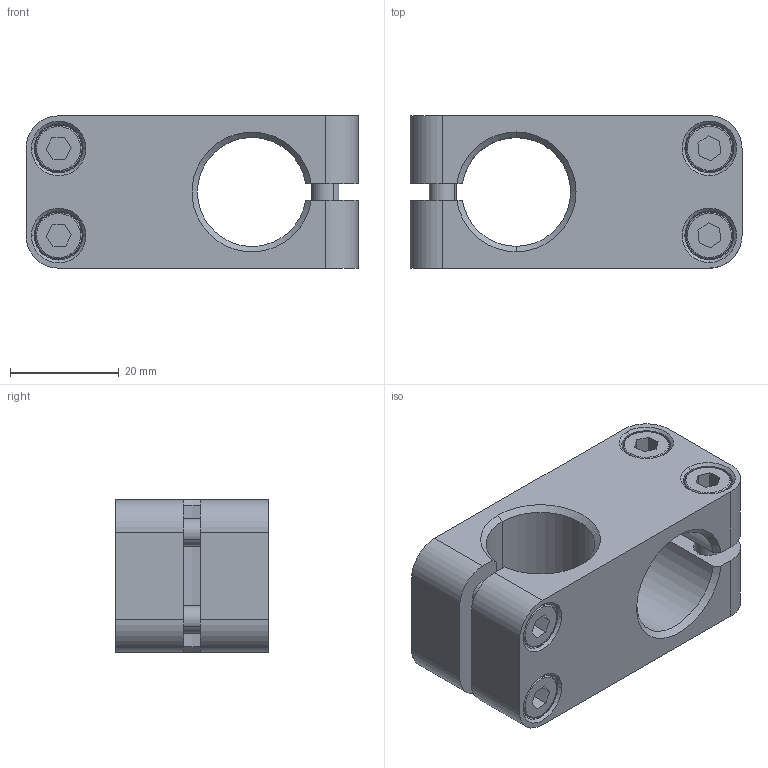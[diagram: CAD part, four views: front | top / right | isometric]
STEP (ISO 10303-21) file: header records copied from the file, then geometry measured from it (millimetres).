
FILE_DESCRIPTION (( 'STEP AP214' ), '1' );
FILE_NAME ('SCD-2020T.STEP', '2023-01-12T08:12:40', ( 'Windows User' ), ( 'P R C' ), 'SwSTEP 2.0', 'SolidWorks 2019', '' );
FILE_SCHEMA (( 'AUTOMOTIVE_DESIGN' ));
Length unit declared in the file: millimetre
Products named in the file (1): SCD-2020T
Bounding box: 61 x 28 x 28 mm (x, y, z)
Volume: 26765 mm3; surface area: 14927.1 mm2
Topology: 9 solids, 9 shells, 926 faces, 2667 edges, 1763 vertices
Faces by surface type: plane 824, cylinder 69, cone 25, bspline 8
Entity records: 41378 total; most frequent: CARTESIAN_POINT 5921, DIRECTION 5396, ORIENTED_EDGE 5334, EDGE_CURVE 2667, AXIS2_PLACEMENT_3D 1834, VERTEX_POINT 1763, LINE 1728, VECTOR 1728
